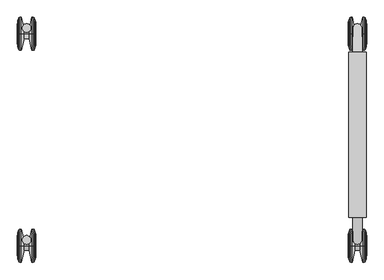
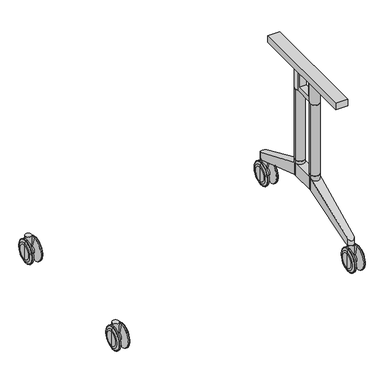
"""IFC4 building model written with IfcOpenShell, lengths in millimetres: furniture geometry, Furniture_Wilkhahn_614-00_TimetableShift : TIMETABLE SHIFT 614/00 1500L x 0900W."""

from ifc_helpers import new_model, si_unit, point, frame, frame_2d, origin, place, context, project, spatial, polyline, circle_curve, ellipse_curve, trimmed, segment, composite_curve, outline, extrude, source, transform, mapped, element, save
from ifc_brep_helpers import plane_surface, cylinder_surface, revolved_surface, advanced_brep


def furniture_ef3f2d50(model_context):
    return source(origin(), model_context, "Body", "SolidModel", [
        advanced_brep(
        [(527.500346, 204.1135107, 49.9999988), (527.500346, 204.1135107, 19.8683152), (527.500346, 204.1135107, 80.1316828), (472.5003238, 204.1135107, 19.8683152), (472.5003238, 204.1135107, 49.9999988), (472.5003238, 204.1135107, 80.1316828), (476.8165382, 204.1135107, 2.051318), (474.0398166, 204.1135107, 10.381507), (474.0398166, 204.1135107, 89.6184911), (476.8165382, 204.1135107, 97.9486801), (484.500318, 204.1135107, -1.2e-06), (479.6625889, 204.1135107, -1.2e-06), (479.6625889, 204.1135107, 99.9999992), (484.500318, 204.1135107, 99.9999992), (492.5003021, 204.1135107, 35.0000003), (492.5003021, 204.1135107, 64.9999978), (507.5003676, 204.1135107, 35.0000003), (507.5003676, 204.1135107, 64.9999978), (515.5003517, 204.1135107, -1.2e-06), (515.5003517, 204.1135107, 99.9999992), (520.3380808, 204.1135107, -1.2e-06), (520.3380808, 204.1135107, 99.9999992), (525.9608532, 204.1135107, 10.381507), (523.1841316, 204.1135107, 2.051318), (523.1841316, 204.1135107, 97.9486801), (525.9608532, 204.1135107, 89.6184911)],
        [
            (0, 1),
            (1, 2, circle_curve(frame((527.500346, 204.1135107, 49.999999), z_axis=(1.0, 0.0, 0.0), x_axis=(0.0, 0.0, 1.0)), 30.1316838)),
            (2, 0),
            (2, 1, circle_curve(frame((527.500346, 204.1135107, 49.999999), z_axis=(1.0, 0.0, 0.0), x_axis=(0.0, 0.0, 1.0)), 30.1316838)),
            (3, 4),
            (4, 5),
            (5, 3, circle_curve(frame((472.5003238, 204.1135107, 49.999999), z_axis=(-1.0, 0.0, 0.0), x_axis=(0.0, 0.0, 1.0)), 30.1316838)),
            (3, 5, circle_curve(frame((472.5003238, 204.1135107, 49.999999), z_axis=(-1.0, 0.0, 0.0), x_axis=(0.0, 0.0, 1.0)), 30.1316838)),
            (6, 7),
            (7, 8, circle_curve(frame((474.0398166, 204.1135107, 49.999999), z_axis=(1.0, 0.0, 0.0), x_axis=(0.0, 0.0, 1.0)), 39.618492)),
            (8, 9),
            (9, 6, circle_curve(frame((476.8165382, 204.1135107, 49.999999), z_axis=(-1.0, 0.0, 0.0), x_axis=(0.0, 0.0, 1.0)), 47.948681)),
            (8, 7, circle_curve(frame((474.0398166, 204.1135107, 49.999999), z_axis=(1.0, 0.0, 0.0), x_axis=(0.0, 0.0, 1.0)), 39.618492)),
            (6, 9, circle_curve(frame((476.8165382, 204.1135107, 49.999999), z_axis=(-1.0, 0.0, 0.0), x_axis=(0.0, 0.0, 1.0)), 47.948681)),
            (10, 11),
            (11, 12, circle_curve(frame((479.6625889, 204.1135107, 49.999999), z_axis=(1.0, 0.0, 0.0), x_axis=(0.0, 0.0, 1.0)), 50.0000002)),
            (12, 13),
            (13, 10, circle_curve(frame((484.500318, 204.1135107, 49.999999), z_axis=(-1.0, 0.0, 0.0), x_axis=(0.0, 0.0, 1.0)), 50.0000002)),
            (12, 11, circle_curve(frame((479.6625889, 204.1135107, 49.999999), z_axis=(1.0, 0.0, 0.0), x_axis=(0.0, 0.0, 1.0)), 50.0000002)),
            (10, 13, circle_curve(frame((484.500318, 204.1135107, 49.999999), z_axis=(-1.0, 0.0, 0.0), x_axis=(0.0, 0.0, 1.0)), 50.0000002)),
            (14, 10),
            (13, 15),
            (15, 14, circle_curve(frame((492.5003021, 204.1135107, 49.999999), z_axis=(-1.0, 0.0, 0.0), x_axis=(0.0, 0.0, 1.0)), 14.9999987)),
            (14, 15, circle_curve(frame((492.5003021, 204.1135107, 49.999999), z_axis=(-1.0, 0.0, 0.0), x_axis=(0.0, 0.0, 1.0)), 14.9999987)),
            (16, 14),
            (15, 17),
            (17, 16, circle_curve(frame((507.5003676, 204.1135107, 49.999999), z_axis=(-1.0, 0.0, 0.0), x_axis=(0.0, 0.0, 1.0)), 14.9999987)),
            (16, 17, circle_curve(frame((507.5003676, 204.1135107, 49.999999), z_axis=(-1.0, 0.0, 0.0), x_axis=(0.0, 0.0, 1.0)), 14.9999987)),
            (18, 16),
            (17, 19),
            (19, 18, circle_curve(frame((515.5003517, 204.1135107, 49.999999), z_axis=(-1.0, 0.0, 0.0), x_axis=(0.0, 0.0, 1.0)), 50.0000002)),
            (18, 19, circle_curve(frame((515.5003517, 204.1135107, 49.999999), z_axis=(-1.0, 0.0, 0.0), x_axis=(0.0, 0.0, 1.0)), 50.0000002)),
            (20, 18),
            (19, 21),
            (21, 20, circle_curve(frame((520.3380808, 204.1135107, 49.999999), z_axis=(-1.0, 0.0, 0.0), x_axis=(0.0, 0.0, 1.0)), 50.0000002)),
            (20, 21, circle_curve(frame((520.3380808, 204.1135107, 49.999999), z_axis=(-1.0, 0.0, 0.0), x_axis=(0.0, 0.0, 1.0)), 50.0000002)),
            (22, 23),
            (23, 24, circle_curve(frame((523.1841316, 204.1135107, 49.999999), z_axis=(1.0, 0.0, 0.0), x_axis=(0.0, 0.0, 1.0)), 47.948681)),
            (24, 25),
            (25, 22, circle_curve(frame((525.9608532, 204.1135107, 49.999999), z_axis=(-1.0, 0.0, 0.0), x_axis=(0.0, 0.0, 1.0)), 39.618492)),
            (24, 23, circle_curve(frame((523.1841316, 204.1135107, 49.999999), z_axis=(1.0, 0.0, 0.0), x_axis=(0.0, 0.0, 1.0)), 47.948681)),
            (22, 25, circle_curve(frame((525.9608532, 204.1135107, 49.999999), z_axis=(-1.0, 0.0, 0.0), x_axis=(0.0, 0.0, 1.0)), 39.618492)),
            (7, 3, circle_curve(frame((502.5003238, 204.1135107, 19.8683152), z_axis=(0.0, 1.0000000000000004, 0.0), x_axis=(-1.0000000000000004, 0.0, 0.0)), 30.0)),
            (5, 8, circle_curve(frame((502.5003238, 204.1135107, 80.1316828), z_axis=(0.0, 1.0000000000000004, 0.0), x_axis=(-1.0000000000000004, 0.0, 0.0)), 30.0)),
            (11, 6, circle_curve(frame((479.6625889, 204.1135107, 2.9999988), z_axis=(0.0, 1.0000000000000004, 0.0), x_axis=(-1.0000000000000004, 0.0, 0.0)), 3.0)),
            (9, 12, circle_curve(frame((479.6625889, 204.1135107, 96.9999992), z_axis=(0.0, 1.0000000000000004, 0.0), x_axis=(-1.0000000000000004, 0.0, 0.0)), 3.0)),
            (23, 20, circle_curve(frame((520.3380808, 204.1135107, 2.9999988), z_axis=(0.0, 1.0000000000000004, 0.0), x_axis=(-1.0000000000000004, 0.0, 0.0)), 3.0)),
            (21, 24, circle_curve(frame((520.3380808, 204.1135107, 96.9999992), z_axis=(0.0, 1.0000000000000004, 0.0), x_axis=(-1.0000000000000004, 0.0, 0.0)), 3.0)),
            (1, 22, circle_curve(frame((497.500346, 204.1135107, 19.8683152), z_axis=(0.0, 1.0000000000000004, 0.0), x_axis=(-1.0000000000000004, 0.0, 0.0)), 30.0)),
            (25, 2, circle_curve(frame((497.500346, 204.1135107, 80.1316828), z_axis=(0.0, 1.0000000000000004, 0.0), x_axis=(-1.0000000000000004, 0.0, 0.0)), 30.0)),
        ],
        [
            plane_surface(frame((527.500346, 204.1135107, 49.999999), z_axis=(1.0, 0.0, 0.0), x_axis=(0.0, 0.0, 1.0))),
            plane_surface(frame((472.5003238, 204.1135107, 49.999999), z_axis=(-1.0, 0.0, 0.0), x_axis=(0.0, 0.0, 1.0))),
            revolved_surface(polyline([(474.0398166, 204.1135107, 89.6184911), (476.8165382, 204.1135107, 97.9486801)]), (539.0660385, 204.1135107, 49.999999), (1.0000000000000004, 0.0, 0.0)),
            cylinder_surface(frame((539.0660385, 204.1135107, 49.999999), z_axis=(1.0000000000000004, 0.0, 0.0), x_axis=(0.0, 0.0, 1.0)), 50.0000002),
            revolved_surface(polyline([(484.500318, 204.1135107, 99.9999992), (492.5003021, 204.1135107, 64.9999978)]), (539.0660385, 204.1135107, 49.999999), (1.0000000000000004, 0.0, 0.0)),
            cylinder_surface(frame((539.0660385, 204.1135107, 49.999999), z_axis=(1.0000000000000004, 0.0, 0.0), x_axis=(0.0, 0.0, 1.0)), 14.9999987),
            revolved_surface(polyline([(507.5003676, 204.1135107, 64.9999978), (515.5003517, 204.1135107, 99.9999992)]), (539.0660385, 204.1135107, 49.999999), (1.0000000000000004, 0.0, 0.0)),
            revolved_surface(polyline([(523.1841316, 204.1135107, 97.9486801), (525.9608532, 204.1135107, 89.6184911)]), (539.0660385, 204.1135107, 49.999999), (1.0000000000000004, 0.0, 0.0)),
            revolved_surface(trimmed(ellipse_curve(frame((502.5003238, 204.1135107, 80.1316828), z_axis=(0.0, 1.0000000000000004, 0.0), x_axis=(-1.0000000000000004, 0.0, 0.0)), 30.0, 30.0), [point((472.5003238, 204.1135107, 80.1316828))], [point((474.0398166, 204.1135107, 89.6184911))], True, "CARTESIAN"), (539.0660385, 204.1135107, 49.999999), (1.0000000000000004, 0.0, 0.0)),
            revolved_surface(trimmed(ellipse_curve(frame((479.6625889, 204.1135107, 96.9999992), z_axis=(0.0, 1.0000000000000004, 0.0), x_axis=(-1.0000000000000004, 0.0, 0.0)), 3.0, 3.0), [point((476.8165382, 204.1135107, 97.9486801))], [point((479.6625889, 204.1135107, 99.9999992))], True, "CARTESIAN"), (539.0660385, 204.1135107, 49.999999), (1.0000000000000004, 0.0, 0.0)),
            revolved_surface(trimmed(ellipse_curve(frame((520.3380808, 204.1135107, 96.9999992), z_axis=(0.0, 1.0000000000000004, 0.0), x_axis=(-1.0000000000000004, 0.0, 0.0)), 3.0, 3.0), [point((520.3380808, 204.1135107, 99.9999992))], [point((523.1841316, 204.1135107, 97.9486801))], True, "CARTESIAN"), (539.0660385, 204.1135107, 49.999999), (1.0000000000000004, 0.0, 0.0)),
            revolved_surface(trimmed(ellipse_curve(frame((497.500346, 204.1135107, 80.1316828), z_axis=(0.0, 1.0000000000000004, 0.0), x_axis=(-1.0000000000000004, 0.0, 0.0)), 30.0, 30.0), [point((525.9608532, 204.1135107, 89.6184911))], [point((527.500346, 204.1135107, 80.1316828))], True, "CARTESIAN"), (539.0660385, 204.1135107, 49.999999), (1.0000000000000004, 0.0, 0.0)),
        ],
        [
            (0, [[1, 2, 3]]),
            (0, [[-3, 4, -1]]),
            (1, [[5, 6, 7]]),
            (1, [[-6, -5, 8]]),
            (2, [[9, 10, 11, 12]]),
            (2, [[-11, 13, -9, 14]]),
            (3, [[15, 16, 17, 18]]),
            (3, [[-17, 19, -15, 20]]),
            (4, [[21, -18, 22, 23]]),
            (4, [[-22, -20, -21, 24]]),
            (5, [[25, -23, 26, 27]]),
            (5, [[-26, -24, -25, 28]]),
            (6, [[29, -27, 30, 31]]),
            (6, [[-30, -28, -29, 32]]),
            (3, [[33, -31, 34, 35]]),
            (3, [[-34, -32, -33, 36]]),
            (7, [[37, 38, 39, 40]]),
            (7, [[-39, 41, -37, 42]]),
            (8, [[43, -7, 44, -10]]),
            (8, [[-44, -8, -43, -13]]),
            (9, [[45, -12, 46, -16]]),
            (9, [[-46, -14, -45, -19]]),
            (10, [[47, -35, 48, -38]]),
            (10, [[-48, -36, -47, -41]]),
            (11, [[49, -40, 50, -2]]),
            (11, [[-50, -42, -49, -4]]),
        ],
    ),
        extrude(outline(composite_curve([segment(trimmed(circle_curve(frame_2d((500.0003349, 221.5135103)), 13.1), [point((513.1003349, 221.5135103))], [point((486.9003349, 221.5135103))], False, "CARTESIAN"), True, "CONTINUOUS"), segment(trimmed(circle_curve(frame_2d((500.0003349, 221.5135103)), 13.1), [point((486.9003349, 221.5135103))], [point((513.1003349, 221.5135103))], False, "CARTESIAN"), True, "CONTINUOUS")], self_intersect=False)), frame((0.0, 0.0, 50.0), z_axis=(0.0, 0.0, 1.0), x_axis=(1.0, 0.0, 0.0)), (0.0, 0.0, 1.0), 55.0),
        advanced_brep(
        [(472.5003238, -436.9185854, 49.9999992), (472.5003238, -436.9185854, 80.1316828), (472.5003238, -436.9185854, 19.8683152), (527.500346, -436.9185854, 19.8683152), (527.500346, -436.9185854, 80.1316828), (527.500346, -436.9185854, 49.9999992), (523.1841316, -436.9185854, 2.051318), (523.1841316, -436.9185854, 97.9486801), (525.9608532, -436.9185854, 89.6184911), (525.9608532, -436.9185854, 10.381507), (515.5003517, -436.9185854, -1.2e-06), (515.5003517, -436.9185854, 99.9999992), (520.3380808, -436.9185854, 99.9999992), (520.3380808, -436.9185854, -1.2e-06), (507.5003676, -436.9185854, 35.0000003), (507.5003676, -436.9185854, 64.9999978), (492.5003021, -436.9185854, 35.0000003), (492.5003021, -436.9185854, 64.9999978), (484.500318, -436.9185854, -1.2e-06), (484.500318, -436.9185854, 99.9999992), (479.6625889, -436.9185854, -1.2e-06), (479.6625889, -436.9185854, 99.9999992), (474.0398166, -436.9185854, 10.381507), (474.0398166, -436.9185854, 89.6184911), (476.8165382, -436.9185854, 97.9486801), (476.8165382, -436.9185854, 2.051318)],
        [
            (0, 1),
            (1, 2, circle_curve(frame((472.5003238, -436.9185854, 49.999999), z_axis=(-1.0, 0.0, 0.0), x_axis=(0.0, 0.0, 1.0)), 30.1316838)),
            (2, 0),
            (2, 1, circle_curve(frame((472.5003238, -436.9185854, 49.999999), z_axis=(-1.0, 0.0, 0.0), x_axis=(0.0, 0.0, 1.0)), 30.1316838)),
            (3, 4, circle_curve(frame((527.500346, -436.9185854, 49.999999), z_axis=(1.0, 0.0, 0.0), x_axis=(0.0, 0.0, 1.0)), 30.1316838)),
            (4, 5),
            (5, 3),
            (4, 3, circle_curve(frame((527.500346, -436.9185854, 49.999999), z_axis=(1.0, 0.0, 0.0), x_axis=(0.0, 0.0, 1.0)), 30.1316838)),
            (6, 7, circle_curve(frame((523.1841316, -436.9185854, 49.999999), z_axis=(1.0, 0.0, 0.0), x_axis=(0.0, 0.0, 1.0)), 47.948681)),
            (7, 8),
            (8, 9, circle_curve(frame((525.9608532, -436.9185854, 49.999999), z_axis=(-1.0, 0.0, 0.0), x_axis=(0.0, 0.0, 1.0)), 39.618492)),
            (9, 6),
            (7, 6, circle_curve(frame((523.1841316, -436.9185854, 49.999999), z_axis=(1.0, 0.0, 0.0), x_axis=(0.0, 0.0, 1.0)), 47.948681)),
            (9, 8, circle_curve(frame((525.9608532, -436.9185854, 49.999999), z_axis=(-1.0, 0.0, 0.0), x_axis=(0.0, 0.0, 1.0)), 39.618492)),
            (10, 11, circle_curve(frame((515.5003517, -436.9185854, 49.999999), z_axis=(1.0, 0.0, 0.0), x_axis=(0.0, 0.0, 1.0)), 50.0000002)),
            (11, 12),
            (12, 13, circle_curve(frame((520.3380808, -436.9185854, 49.999999), z_axis=(-1.0, 0.0, 0.0), x_axis=(0.0, 0.0, 1.0)), 50.0000002)),
            (13, 10),
            (11, 10, circle_curve(frame((515.5003517, -436.9185854, 49.999999), z_axis=(1.0, 0.0, 0.0), x_axis=(0.0, 0.0, 1.0)), 50.0000002)),
            (13, 12, circle_curve(frame((520.3380808, -436.9185854, 49.999999), z_axis=(-1.0, 0.0, 0.0), x_axis=(0.0, 0.0, 1.0)), 50.0000002)),
            (14, 15, circle_curve(frame((507.5003676, -436.9185854, 49.999999), z_axis=(1.0, 0.0, 0.0), x_axis=(0.0, 0.0, 1.0)), 14.9999987)),
            (15, 11),
            (10, 14),
            (15, 14, circle_curve(frame((507.5003676, -436.9185854, 49.999999), z_axis=(1.0, 0.0, 0.0), x_axis=(0.0, 0.0, 1.0)), 14.9999987)),
            (16, 17, circle_curve(frame((492.5003021, -436.9185854, 49.999999), z_axis=(1.0, 0.0, 0.0), x_axis=(0.0, 0.0, 1.0)), 14.9999987)),
            (17, 15),
            (14, 16),
            (17, 16, circle_curve(frame((492.5003021, -436.9185854, 49.999999), z_axis=(1.0, 0.0, 0.0), x_axis=(0.0, 0.0, 1.0)), 14.9999987)),
            (18, 19, circle_curve(frame((484.500318, -436.9185854, 49.999999), z_axis=(1.0, 0.0, 0.0), x_axis=(0.0, 0.0, 1.0)), 50.0000002)),
            (19, 17),
            (16, 18),
            (19, 18, circle_curve(frame((484.500318, -436.9185854, 49.999999), z_axis=(1.0, 0.0, 0.0), x_axis=(0.0, 0.0, 1.0)), 50.0000002)),
            (20, 21, circle_curve(frame((479.6625889, -436.9185854, 49.999999), z_axis=(1.0, 0.0, 0.0), x_axis=(0.0, 0.0, 1.0)), 50.0000002)),
            (21, 19),
            (18, 20),
            (21, 20, circle_curve(frame((479.6625889, -436.9185854, 49.999999), z_axis=(1.0, 0.0, 0.0), x_axis=(0.0, 0.0, 1.0)), 50.0000002)),
            (22, 23, circle_curve(frame((474.0398166, -436.9185854, 49.999999), z_axis=(1.0, 0.0, 0.0), x_axis=(0.0, 0.0, 1.0)), 39.618492)),
            (23, 24),
            (24, 25, circle_curve(frame((476.8165382, -436.9185854, 49.999999), z_axis=(-1.0, 0.0, 0.0), x_axis=(0.0, 0.0, 1.0)), 47.948681)),
            (25, 22),
            (23, 22, circle_curve(frame((474.0398166, -436.9185854, 49.999999), z_axis=(1.0, 0.0, 0.0), x_axis=(0.0, 0.0, 1.0)), 39.618492)),
            (25, 24, circle_curve(frame((476.8165382, -436.9185854, 49.999999), z_axis=(-1.0, 0.0, 0.0), x_axis=(0.0, 0.0, 1.0)), 47.948681)),
            (8, 4, circle_curve(frame((497.500346, -436.9185854, 80.1316828), z_axis=(0.0, 1.0, 0.0), x_axis=(1.0, 0.0, 0.0)), 30.0)),
            (3, 9, circle_curve(frame((497.500346, -436.9185854, 19.8683152), z_axis=(0.0, 1.0, 0.0), x_axis=(1.0, 0.0, 0.0)), 30.0)),
            (12, 7, circle_curve(frame((520.3380808, -436.9185854, 96.9999992), z_axis=(0.0, 1.0, 0.0), x_axis=(1.0, 0.0, 0.0)), 3.0)),
            (6, 13, circle_curve(frame((520.3380808, -436.9185854, 2.9999988), z_axis=(0.0, 1.0, 0.0), x_axis=(1.0, 0.0, 0.0)), 3.0)),
            (24, 21, circle_curve(frame((479.6625889, -436.9185854, 96.9999992), z_axis=(0.0, 1.0, 0.0), x_axis=(1.0, 0.0, 0.0)), 3.0)),
            (20, 25, circle_curve(frame((479.6625889, -436.9185854, 2.9999988), z_axis=(0.0, 1.0, 0.0), x_axis=(1.0, 0.0, 0.0)), 3.0)),
            (1, 23, circle_curve(frame((502.5003238, -436.9185854, 80.1316828), z_axis=(0.0, 1.0, 0.0), x_axis=(1.0, 0.0, 0.0)), 30.0)),
            (22, 2, circle_curve(frame((502.5003238, -436.9185854, 19.8683152), z_axis=(0.0, 1.0, 0.0), x_axis=(1.0, 0.0, 0.0)), 30.0)),
        ],
        [
            plane_surface(frame((472.5003238, -436.9185854, 49.999999), z_axis=(-1.0, 0.0, 0.0), x_axis=(0.0, 0.0, 1.0))),
            plane_surface(frame((527.500346, -436.9185854, 49.999999), z_axis=(1.0, 0.0, 0.0), x_axis=(0.0, 0.0, 1.0))),
            revolved_surface(polyline([(525.9608532, -436.9185854, 89.6184911), (523.1841316, -436.9185854, 97.9486801)]), (460.9346312, -436.9185854, 49.999999), (-1.0, 0.0, 0.0)),
            cylinder_surface(frame((460.9346312, -436.9185854, 49.999999), z_axis=(-1.0, 0.0, 0.0), x_axis=(0.0, 0.0, 1.0)), 50.0000002),
            revolved_surface(polyline([(515.5003517, -436.9185854, 99.9999992), (507.5003676, -436.9185854, 64.9999978)]), (460.9346312, -436.9185854, 49.999999), (-1.0, 0.0, 0.0)),
            cylinder_surface(frame((460.9346312, -436.9185854, 49.999999), z_axis=(-1.0, 0.0, 0.0), x_axis=(0.0, 0.0, 1.0)), 14.9999987),
            revolved_surface(polyline([(492.5003021, -436.9185854, 64.9999978), (484.500318, -436.9185854, 99.9999992)]), (460.9346312, -436.9185854, 49.999999), (-1.0, 0.0, 0.0)),
            revolved_surface(polyline([(476.8165382, -436.9185854, 97.9486801), (474.0398166, -436.9185854, 89.6184911)]), (460.9346312, -436.9185854, 49.999999), (-1.0, 0.0, 0.0)),
            revolved_surface(trimmed(ellipse_curve(frame((497.500346, -436.9185854, 80.1316828), z_axis=(0.0, -1.0, 0.0), x_axis=(1.0, 0.0, 0.0)), 30.0, 30.0), [point((527.500346, -436.9185854, 80.1316828))], [point((525.9608532, -436.9185854, 89.6184911))], True, "CARTESIAN"), (460.9346312, -436.9185854, 49.999999), (-1.0, 0.0, 0.0)),
            revolved_surface(trimmed(ellipse_curve(frame((520.3380808, -436.9185854, 96.9999992), z_axis=(0.0, -1.0, 0.0), x_axis=(1.0, 0.0, 0.0)), 3.0, 3.0), [point((523.1841316, -436.9185854, 97.9486801))], [point((520.3380808, -436.9185854, 99.9999992))], True, "CARTESIAN"), (460.9346312, -436.9185854, 49.999999), (-1.0, 0.0, 0.0)),
            revolved_surface(trimmed(ellipse_curve(frame((479.6625889, -436.9185854, 96.9999992), z_axis=(0.0, -1.0, 0.0), x_axis=(1.0, 0.0, 0.0)), 3.0, 3.0), [point((479.6625889, -436.9185854, 99.9999992))], [point((476.8165382, -436.9185854, 97.9486801))], True, "CARTESIAN"), (460.9346312, -436.9185854, 49.999999), (-1.0, 0.0, 0.0)),
            revolved_surface(trimmed(ellipse_curve(frame((502.5003238, -436.9185854, 80.1316828), z_axis=(0.0, -1.0, 0.0), x_axis=(1.0, 0.0, 0.0)), 30.0, 30.0), [point((474.0398166, -436.9185854, 89.6184911))], [point((472.5003238, -436.9185854, 80.1316828))], True, "CARTESIAN"), (460.9346312, -436.9185854, 49.999999), (-1.0, 0.0, 0.0)),
        ],
        [
            (0, [[1, 2, 3]]),
            (0, [[-3, 4, -1]]),
            (1, [[5, 6, 7]]),
            (1, [[8, -7, -6]]),
            (2, [[9, 10, 11, 12]]),
            (2, [[13, -12, 14, -10]]),
            (3, [[15, 16, 17, 18]]),
            (3, [[19, -18, 20, -16]]),
            (4, [[21, 22, -15, 23]]),
            (4, [[24, -23, -19, -22]]),
            (5, [[25, 26, -21, 27]]),
            (5, [[28, -27, -24, -26]]),
            (6, [[29, 30, -25, 31]]),
            (6, [[32, -31, -28, -30]]),
            (3, [[33, 34, -29, 35]]),
            (3, [[36, -35, -32, -34]]),
            (7, [[37, 38, 39, 40]]),
            (7, [[41, -40, 42, -38]]),
            (8, [[-11, 43, -5, 44]]),
            (8, [[-14, -44, -8, -43]]),
            (9, [[-17, 45, -9, 46]]),
            (9, [[-20, -46, -13, -45]]),
            (10, [[-39, 47, -33, 48]]),
            (10, [[-42, -48, -36, -47]]),
            (11, [[-2, 49, -37, 50]]),
            (11, [[-4, -50, -41, -49]]),
        ],
    ),
        extrude(outline(composite_curve([segment(trimmed(circle_curve(frame_2d((500.0003349, -419.5185858)), 13.1), [point((486.9003349, -419.5185858))], [point((513.1003349, -419.5185858))], False, "CARTESIAN"), True, "CONTINUOUS"), segment(trimmed(circle_curve(frame_2d((500.0003349, -419.5185858)), 13.1), [point((513.1003349, -419.5185858))], [point((486.9003349, -419.5185858))], False, "CARTESIAN"), True, "CONTINUOUS")], self_intersect=False)), frame((0.0, 0.0, 50.0), z_axis=(0.0, 0.0, 1.0), x_axis=(1.0, 0.0, 0.0)), (0.0, 0.0, 1.0), 55.0),
        extrude(outline(composite_curve([segment(trimmed(circle_curve(frame_2d((500.0, -154.0488451)), 20.0), [point((480.0, -154.0488451))], [point((520.0, -154.0488451))], False, "CARTESIAN"), True, "CONTINUOUS"), segment(trimmed(circle_curve(frame_2d((500.0, -154.0488451)), 20.0), [point((520.0, -154.0488451))], [point((480.0, -154.0488451))], False, "CARTESIAN"), True, "CONTINUOUS")], self_intersect=False)), frame((0.0, 0.0, 193.3080085), z_axis=(0.0, 0.0, 1.0), x_axis=(1.0, 0.0, 0.0)), (0.0, 0.0, 1.0), 68.8536941),
        extrude(outline(composite_curve([segment(trimmed(circle_curve(frame_2d((500.0, -44.0488461)), 20.0), [point((480.0, -44.0488461))], [point((520.0, -44.0488461))], False, "CARTESIAN"), True, "CONTINUOUS"), segment(trimmed(circle_curve(frame_2d((500.0, -44.0488461)), 20.0), [point((520.0, -44.0488461))], [point((480.0, -44.0488461))], False, "CARTESIAN"), True, "CONTINUOUS")], self_intersect=False)), frame((0.0, 0.0, 193.3080085), z_axis=(0.0, 0.0, 1.0), x_axis=(1.0, 0.0, 0.0)), (0.0, 0.0, 1.0), 68.8536941),
        extrude(outline(composite_curve([segment(trimmed(circle_curve(frame_2d((500.0, -154.0488451)), 20.0), [point((480.0, -154.0488451))], [point((520.0, -154.0488451))], False, "CARTESIAN"), True, "CONTINUOUS"), segment(trimmed(circle_curve(frame_2d((500.0, -154.0488451)), 20.0), [point((520.0, -154.0488451))], [point((480.0, -154.0488451))], False, "CARTESIAN"), True, "CONTINUOUS")], self_intersect=False)), frame((0.0, 0.0, 262.1617027), z_axis=(0.0, 0.0, 1.0), x_axis=(1.0, 0.0, 0.0)), (0.0, 0.0, 1.0), 317.8382973),
        extrude(outline(composite_curve([segment(trimmed(circle_curve(frame_2d((500.0, -44.0488461)), 20.0), [point((480.0, -44.0488461))], [point((520.0, -44.0488461))], False, "CARTESIAN"), True, "CONTINUOUS"), segment(trimmed(circle_curve(frame_2d((500.0, -44.0488461)), 20.0), [point((520.0, -44.0488461))], [point((480.0, -44.0488461))], False, "CARTESIAN"), True, "CONTINUOUS")], self_intersect=False)), frame((0.0, 0.0, 262.1617027), z_axis=(0.0, 0.0, 1.0), x_axis=(1.0, 0.0, 0.0)), (0.0, 0.0, 1.0), 317.8382973),
        extrude(outline(polyline([(526.0000118, 147.9511612), (526.0000118, -352.0488426), (473.9999882, -352.0488426), (473.9999882, 147.9511612), (526.0000118, 147.9511612)])), frame((0.0, 0.0, 676.0000168), z_axis=(0.0, 0.0, 1.0), x_axis=(1.0, 0.0, 0.0)), (0.0, 0.0, 1.0), 27.9999624),
        advanced_brep(
        [(485.0001238, -140.8200278, 676.0000168), (515.0001095, -140.8201331, 676.0000168), (515.0001095, -134.0488456, 676.0000168), (485.0001238, -134.0488456, 676.0000168), (515.0001095, -57.2775581, 676.0000168), (485.0001238, -57.2776634, 676.0000168), (485.0001238, -64.0488456, 676.0000168), (515.0001095, -64.0488456, 676.0000168), (485.0001238, -57.2776634, 580.0), (515.0001095, -57.2775581, 580.0), (515.0001095, -140.8201331, 580.0), (485.0001238, -140.8200278, 580.0), (485.0001238, -134.0488456, 598.0000176), (485.0001238, -64.0488456, 598.0000176), (515.0001095, -64.0488456, 598.0000176), (515.0001095, -134.0488456, 598.0000176)],
        [
            (0, 1, circle_curve(frame((500.0000702, -154.0488451, 676.0000168), z_axis=(0.0, 0.0, 1.0), x_axis=(1.0, 0.0, 0.0)), 20.0)),
            (1, 2),
            (2, 3),
            (3, 0),
            (4, 5, circle_curve(frame((500.0000702, -44.0488461, 676.0000168), z_axis=(0.0, 0.0, 1.0), x_axis=(1.0, 0.0, 0.0)), 20.0)),
            (5, 6),
            (6, 7),
            (7, 4),
            (8, 9, circle_curve(frame((500.0000702, -44.0488461, 580.0), z_axis=(0.0, 0.0, -1.0), x_axis=(1.0, 0.0, 0.0)), 20.0)),
            (9, 10),
            (10, 11, circle_curve(frame((500.0000702, -154.0488451, 580.0), z_axis=(0.0, 0.0, -1.0), x_axis=(1.0, 0.0, 0.0)), 20.0)),
            (11, 8),
            (11, 0),
            (3, 12),
            (12, 13),
            (13, 6),
            (5, 8),
            (10, 1),
            (9, 4),
            (7, 14),
            (14, 15),
            (15, 2),
            (15, 12),
            (14, 13),
        ],
        [
            plane_surface(frame((485.0001238, -140.8200278, 676.0000168), z_axis=(0.0, 0.0, 1.0), x_axis=(0.0, -1.0, 0.0))),
            plane_surface(frame((485.0001238, -140.8200278, 580.0), z_axis=(0.0, 0.0, -1.0), x_axis=(0.0, 1.0, 0.0))),
            plane_surface(frame((485.0001238, -57.2776634, 676.0000168), z_axis=(-1.0, 0.0, 0.0), x_axis=(0.0, 0.0, -1.0))),
            cylinder_surface(frame((500.0000702, -154.0488451, 580.0), z_axis=(0.0, 0.0, 1.0), x_axis=(1.0, 0.0, 0.0)), 20.0),
            plane_surface(frame((515.0001095, -140.8201331, 676.0000168), z_axis=(1.0, 0.0, 0.0), x_axis=(0.0, 0.0, -1.0))),
            cylinder_surface(frame((500.0000702, -44.0488461, 580.0), z_axis=(0.0, 0.0, 1.0), x_axis=(1.0, 0.0, 0.0)), 20.0),
            plane_surface(frame((515.0001095, -134.0488456, 676.0000168), z_axis=(0.0, 1.0, 0.0), x_axis=(-1.0, 0.0, 0.0))),
            plane_surface(frame((515.0001095, -134.0488456, 598.0000176), z_axis=(0.0, 0.0, 1.0), x_axis=(-1.0, 0.0, 0.0))),
            plane_surface(frame((515.0001095, -64.0488456, 598.0000176), z_axis=(0.0, -1.0, 0.0), x_axis=(-1.0, 0.0, 0.0))),
        ],
        [
            (0, [[1, 2, 3, 4]]),
            (0, [[5, 6, 7, 8]]),
            (1, [[9, 10, 11, 12]]),
            (2, [[-12, 13, -4, 14, 15, 16, -6, 17]]),
            (3, [[-1, -13, -11, 18]]),
            (4, [[-10, 19, -8, 20, 21, 22, -2, -18]]),
            (5, [[-5, -19, -9, -17]]),
            (6, [[23, -14, -3, -22]]),
            (7, [[-23, -21, 24, -15]]),
            (8, [[-24, -20, -7, -16]]),
        ],
    ),
        advanced_brep(
        [(519.9999818, -154.0488451, 248.3080085), (519.9999818, -44.0488461, 248.3080085), (479.9999818, -44.0488461, 248.3080085), (479.9999818, -154.0488451, 248.3080085), (479.9999818, -44.0488461, 193.3080085), (479.9999818, -154.0488451, 193.3080085), (519.9999818, -154.0488451, 193.3080085), (519.9999818, -44.0488461, 193.3080085), (513.4728951, 208.4135103, 105.0), (486.527103, 208.4135103, 105.0), (486.8737706, 221.8222582, 105.0), (513.1262294, 221.8222564, 105.0), (486.8737706, 221.8222582, 133.4205559), (513.1262294, 221.8222564, 133.4205567), (519.7999588, -36.3121196, 193.3080085), (480.2000059, -36.3121196, 193.3080085), (513.1262294, -419.9199475, 133.4205567), (486.8737706, -419.9199493, 133.4205559), (513.1262294, -419.9199475, 105.0), (513.4728951, -406.5112014, 105.0), (519.7999588, -161.7855715, 193.3080085), (486.8737706, -419.9199493, 105.0), (480.2000059, -161.7855715, 193.3080085), (486.527103, -406.5112014, 105.0)],
        [
            (0, 1),
            (1, 2),
            (2, 3),
            (3, 0),
            (2, 4),
            (4, 5),
            (5, 3),
            (0, 6),
            (6, 7),
            (7, 1),
            (8, 9),
            (9, 10),
            (10, 11, circle_curve(frame((500.0, 221.4828948, 105.0), z_axis=(0.0, 0.0, -1.0), x_axis=(1.0, 0.0, 0.0)), 13.1306156)),
            (11, 8),
            (12, 2),
            (1, 13),
            (13, 12, ellipse_curve(frame((500.0, 221.4828948, 133.5672007), z_axis=(0.0, 0.3966672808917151, 0.9179624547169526), x_axis=(0.0, 0.9179624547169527, -0.39666728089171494)), 14.3040878, 13.1306156)),
            (8, 14),
            (14, 15),
            (15, 9),
            (16, 0),
            (3, 17),
            (17, 16, ellipse_curve(frame((500.0, -419.5805859, 133.5672007), z_axis=(0.0, -0.3966672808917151, 0.9179624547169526), x_axis=(0.0, -0.9179624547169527, -0.39666728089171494)), 14.3040878, 13.1306156)),
            (16, 18),
            (18, 19),
            (19, 20),
            (20, 6),
            (17, 21),
            (21, 18, circle_curve(frame((500.0, -419.5805859, 105.0), z_axis=(0.0, 0.0, 1.0), x_axis=(1.0, 0.0, 0.0)), 13.1306156)),
            (5, 22),
            (22, 23),
            (23, 21),
            (12, 10),
            (15, 4),
            (13, 11),
            (7, 14),
            (23, 19),
            (22, 20),
        ],
        [
            plane_surface(frame((519.9999818, -44.0488461, 248.3080085), z_axis=(0.0, 0.0, 1.0), x_axis=(0.0, 1.0, 0.0))),
            plane_surface(frame((479.9999818, -44.0488461, 248.3080085), z_axis=(-1.0, 0.0, 0.0), x_axis=(0.0, 0.0, -1.0))),
            plane_surface(frame((519.9999818, -154.0488451, 248.3080085), z_axis=(1.0, 0.0, 0.0), x_axis=(0.0, 0.0, -1.0))),
            plane_surface(frame((521.3794585, 208.4135103, 105.0), z_axis=(0.0, 0.0, -1.0), x_axis=(-1.0, 0.0, 0.0))),
            plane_surface(frame((521.3794585, 235.9511544, 127.3152182), z_axis=(0.0, 0.3966672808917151, 0.9179624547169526), x_axis=(-1.0, 0.0, 0.0))),
            plane_surface(frame((521.3794585, -36.3121196, 193.3080085), z_axis=(0.0, -0.3394229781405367, -0.9406338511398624), x_axis=(-1.0, 0.0, 0.0))),
            plane_surface(frame((521.3794585, -154.0488451, 248.3080085), z_axis=(0.0, -0.3966672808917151, 0.9179624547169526), x_axis=(-1.0, 0.0, 0.0))),
            plane_surface(frame((519.9999818, -154.0488451, 249.0000084), z_axis=(0.9996659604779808, -0.025845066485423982, 0.0), x_axis=(0.0, 0.0, -1.0))),
            cylinder_surface(frame((500.0, -419.5805859, 90.0000025), z_axis=(0.0, 0.0, -1.0), x_axis=(1.0, 0.0, 0.0)), 13.1306156),
            plane_surface(frame((486.8737706, -419.9199493, 249.0000084), z_axis=(-0.9996659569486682, -0.025845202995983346, 0.0), x_axis=(0.0, 0.0, -1.0))),
            plane_surface(frame((479.9999818, -44.0488461, 249.0000084), z_axis=(-0.9996659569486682, 0.025845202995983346, 0.0), x_axis=(0.0, 0.0, -1.0))),
            cylinder_surface(frame((500.0, 221.4828948, 0.0), z_axis=(0.0, 0.0, -1.0), x_axis=(1.0, 0.0, 0.0)), 13.1306156),
            plane_surface(frame((513.1262294, 221.8222564, 249.0000084), z_axis=(0.9996659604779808, 0.025845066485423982, 0.0), x_axis=(0.0, 0.0, -1.0))),
            plane_surface(frame((521.3794585, -434.0488456, 105.0), z_axis=(0.0, 0.0, -1.0), x_axis=(-1.0, 0.0, 0.0))),
            plane_surface(frame((521.3794585, -406.5112014, 105.0), z_axis=(0.0, 0.3394229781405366, -0.9406338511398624), x_axis=(-1.0, 0.0, 0.0))),
            plane_surface(frame((521.3794585, -44.0488461, 193.3080085), z_axis=(0.0, 0.0, -1.0), x_axis=(-1.0, 0.0, 0.0))),
        ],
        [
            (0, [[1, 2, 3, 4]]),
            (1, [[-3, 5, 6, 7]]),
            (2, [[-1, 8, 9, 10]]),
            (3, [[11, 12, 13, 14]]),
            (4, [[15, -2, 16, 17]]),
            (5, [[-11, 18, 19, 20]]),
            (6, [[21, -4, 22, 23]]),
            (7, [[24, 25, 26, 27, -8, -21]]),
            (8, [[-24, -23, 28, 29]]),
            (9, [[-28, -22, -7, 30, 31, 32]]),
            (10, [[33, -12, -20, 34, -5, -15]]),
            (11, [[-33, -17, 35, -13]]),
            (12, [[-35, -16, -10, 36, -18, -14]]),
            (13, [[37, -25, -29, -32]]),
            (14, [[-37, -31, 38, -26]]),
            (15, [[-19, -36, -9, -27, -38, -30, -6, -34]]),
        ],
    ),
        advanced_brep(
        [(-472.499654, 204.1135107, 49.9999988), (-472.499654, 204.1135107, 19.8683152), (-472.499654, 204.1135107, 80.1316828), (-527.4996762, 204.1135107, 19.8683152), (-527.4996762, 204.1135107, 49.9999988), (-527.4996762, 204.1135107, 80.1316828), (-523.1834618, 204.1135107, 2.051318), (-525.9601834, 204.1135107, 10.381507), (-525.9601834, 204.1135107, 89.6184911), (-523.1834618, 204.1135107, 97.9486801), (-515.499682, 204.1135107, -1.2e-06), (-520.3374111, 204.1135107, -1.2e-06), (-520.3374111, 204.1135107, 99.9999992), (-515.499682, 204.1135107, 99.9999992), (-507.4996979, 204.1135107, 35.0000003), (-507.4996979, 204.1135107, 64.9999978), (-492.4996324, 204.1135107, 35.0000003), (-492.4996324, 204.1135107, 64.9999978), (-484.4996483, 204.1135107, -1.2e-06), (-484.4996483, 204.1135107, 99.9999992), (-479.6619192, 204.1135107, -1.2e-06), (-479.6619192, 204.1135107, 99.9999992), (-474.0391468, 204.1135107, 10.381507), (-476.8158684, 204.1135107, 2.051318), (-476.8158684, 204.1135107, 97.9486801), (-474.0391468, 204.1135107, 89.6184911)],
        [
            (0, 1),
            (1, 2, circle_curve(frame((-472.499654, 204.1135107, 49.999999), z_axis=(1.0, 0.0, 0.0), x_axis=(0.0, 0.0, 1.0)), 30.1316838)),
            (2, 0),
            (2, 1, circle_curve(frame((-472.499654, 204.1135107, 49.999999), z_axis=(1.0, 0.0, 0.0), x_axis=(0.0, 0.0, 1.0)), 30.1316838)),
            (3, 4),
            (4, 5),
            (5, 3, circle_curve(frame((-527.4996762, 204.1135107, 49.999999), z_axis=(-1.0, 0.0, 0.0), x_axis=(0.0, 0.0, 1.0)), 30.1316838)),
            (3, 5, circle_curve(frame((-527.4996762, 204.1135107, 49.999999), z_axis=(-1.0, 0.0, 0.0), x_axis=(0.0, 0.0, 1.0)), 30.1316838)),
            (6, 7),
            (7, 8, circle_curve(frame((-525.9601834, 204.1135107, 49.999999), z_axis=(1.0, 0.0, 0.0), x_axis=(0.0, 0.0, 1.0)), 39.618492)),
            (8, 9),
            (9, 6, circle_curve(frame((-523.1834618, 204.1135107, 49.999999), z_axis=(-1.0, 0.0, 0.0), x_axis=(0.0, 0.0, 1.0)), 47.948681)),
            (8, 7, circle_curve(frame((-525.9601834, 204.1135107, 49.999999), z_axis=(1.0, 0.0, 0.0), x_axis=(0.0, 0.0, 1.0)), 39.618492)),
            (6, 9, circle_curve(frame((-523.1834618, 204.1135107, 49.999999), z_axis=(-1.0, 0.0, 0.0), x_axis=(0.0, 0.0, 1.0)), 47.948681)),
            (10, 11),
            (11, 12, circle_curve(frame((-520.3374111, 204.1135107, 49.999999), z_axis=(1.0, 0.0, 0.0), x_axis=(0.0, 0.0, 1.0)), 50.0000002)),
            (12, 13),
            (13, 10, circle_curve(frame((-515.499682, 204.1135107, 49.999999), z_axis=(-1.0, 0.0, 0.0), x_axis=(0.0, 0.0, 1.0)), 50.0000002)),
            (12, 11, circle_curve(frame((-520.3374111, 204.1135107, 49.999999), z_axis=(1.0, 0.0, 0.0), x_axis=(0.0, 0.0, 1.0)), 50.0000002)),
            (10, 13, circle_curve(frame((-515.499682, 204.1135107, 49.999999), z_axis=(-1.0, 0.0, 0.0), x_axis=(0.0, 0.0, 1.0)), 50.0000002)),
            (14, 10),
            (13, 15),
            (15, 14, circle_curve(frame((-507.4996979, 204.1135107, 49.999999), z_axis=(-1.0, 0.0, 0.0), x_axis=(0.0, 0.0, 1.0)), 14.9999987)),
            (14, 15, circle_curve(frame((-507.4996979, 204.1135107, 49.999999), z_axis=(-1.0, 0.0, 0.0), x_axis=(0.0, 0.0, 1.0)), 14.9999987)),
            (16, 14),
            (15, 17),
            (17, 16, circle_curve(frame((-492.4996324, 204.1135107, 49.999999), z_axis=(-1.0, 0.0, 0.0), x_axis=(0.0, 0.0, 1.0)), 14.9999987)),
            (16, 17, circle_curve(frame((-492.4996324, 204.1135107, 49.999999), z_axis=(-1.0, 0.0, 0.0), x_axis=(0.0, 0.0, 1.0)), 14.9999987)),
            (18, 16),
            (17, 19),
            (19, 18, circle_curve(frame((-484.4996483, 204.1135107, 49.999999), z_axis=(-1.0, 0.0, 0.0), x_axis=(0.0, 0.0, 1.0)), 50.0000002)),
            (18, 19, circle_curve(frame((-484.4996483, 204.1135107, 49.999999), z_axis=(-1.0, 0.0, 0.0), x_axis=(0.0, 0.0, 1.0)), 50.0000002)),
            (20, 18),
            (19, 21),
            (21, 20, circle_curve(frame((-479.6619192, 204.1135107, 49.999999), z_axis=(-1.0, 0.0, 0.0), x_axis=(0.0, 0.0, 1.0)), 50.0000002)),
            (20, 21, circle_curve(frame((-479.6619192, 204.1135107, 49.999999), z_axis=(-1.0, 0.0, 0.0), x_axis=(0.0, 0.0, 1.0)), 50.0000002)),
            (22, 23),
            (23, 24, circle_curve(frame((-476.8158684, 204.1135107, 49.999999), z_axis=(1.0, 0.0, 0.0), x_axis=(0.0, 0.0, 1.0)), 47.948681)),
            (24, 25),
            (25, 22, circle_curve(frame((-474.0391468, 204.1135107, 49.999999), z_axis=(-1.0, 0.0, 0.0), x_axis=(0.0, 0.0, 1.0)), 39.618492)),
            (24, 23, circle_curve(frame((-476.8158684, 204.1135107, 49.999999), z_axis=(1.0, 0.0, 0.0), x_axis=(0.0, 0.0, 1.0)), 47.948681)),
            (22, 25, circle_curve(frame((-474.0391468, 204.1135107, 49.999999), z_axis=(-1.0, 0.0, 0.0), x_axis=(0.0, 0.0, 1.0)), 39.618492)),
            (7, 3, circle_curve(frame((-497.4996762, 204.1135107, 19.8683152), z_axis=(0.0, 1.0000000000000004, 0.0), x_axis=(-1.0000000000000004, 0.0, 0.0)), 30.0)),
            (5, 8, circle_curve(frame((-497.4996762, 204.1135107, 80.1316828), z_axis=(0.0, 1.0000000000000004, 0.0), x_axis=(-1.0000000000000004, 0.0, 0.0)), 30.0)),
            (11, 6, circle_curve(frame((-520.3374111, 204.1135107, 2.9999988), z_axis=(0.0, 1.0000000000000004, 0.0), x_axis=(-1.0000000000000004, 0.0, 0.0)), 3.0)),
            (9, 12, circle_curve(frame((-520.3374111, 204.1135107, 96.9999992), z_axis=(0.0, 1.0000000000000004, 0.0), x_axis=(-1.0000000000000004, 0.0, 0.0)), 3.0)),
            (23, 20, circle_curve(frame((-479.6619192, 204.1135107, 2.9999988), z_axis=(0.0, 1.0000000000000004, 0.0), x_axis=(-1.0000000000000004, 0.0, 0.0)), 3.0)),
            (21, 24, circle_curve(frame((-479.6619192, 204.1135107, 96.9999992), z_axis=(0.0, 1.0000000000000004, 0.0), x_axis=(-1.0000000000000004, 0.0, 0.0)), 3.0)),
            (1, 22, circle_curve(frame((-502.499654, 204.1135107, 19.8683152), z_axis=(0.0, 1.0000000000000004, 0.0), x_axis=(-1.0000000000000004, 0.0, 0.0)), 30.0)),
            (25, 2, circle_curve(frame((-502.499654, 204.1135107, 80.1316828), z_axis=(0.0, 1.0000000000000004, 0.0), x_axis=(-1.0000000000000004, 0.0, 0.0)), 30.0)),
        ],
        [
            plane_surface(frame((-472.499654, 204.1135107, 49.999999), z_axis=(1.0, 0.0, 0.0), x_axis=(0.0, 0.0, 1.0))),
            plane_surface(frame((-527.4996762, 204.1135107, 49.999999), z_axis=(-1.0, 0.0, 0.0), x_axis=(0.0, 0.0, 1.0))),
            revolved_surface(polyline([(-525.9601834, 204.1135107, 89.6184911), (-523.1834618, 204.1135107, 97.9486801)]), (-460.9339615, 204.1135107, 49.999999), (1.0000000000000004, 0.0, 0.0)),
            cylinder_surface(frame((-460.9339615, 204.1135107, 49.999999), z_axis=(1.0000000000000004, 0.0, 0.0), x_axis=(0.0, 0.0, 1.0)), 50.0000002),
            revolved_surface(polyline([(-515.499682, 204.1135107, 99.9999992), (-507.4996979, 204.1135107, 64.9999978)]), (-460.9339615, 204.1135107, 49.999999), (1.0000000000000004, 0.0, 0.0)),
            cylinder_surface(frame((-460.9339615, 204.1135107, 49.999999), z_axis=(1.0000000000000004, 0.0, 0.0), x_axis=(0.0, 0.0, 1.0)), 14.9999987),
            revolved_surface(polyline([(-492.4996324, 204.1135107, 64.9999978), (-484.4996483, 204.1135107, 99.9999992)]), (-460.9339615, 204.1135107, 49.999999), (1.0000000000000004, 0.0, 0.0)),
            revolved_surface(polyline([(-476.8158684, 204.1135107, 97.9486801), (-474.0391468, 204.1135107, 89.6184911)]), (-460.9339615, 204.1135107, 49.999999), (1.0000000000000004, 0.0, 0.0)),
            revolved_surface(trimmed(ellipse_curve(frame((-497.4996762, 204.1135107, 80.1316828), z_axis=(0.0, 1.0000000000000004, 0.0), x_axis=(-1.0000000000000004, 0.0, 0.0)), 30.0, 30.0), [point((-527.4996762, 204.1135107, 80.1316828))], [point((-525.9601834, 204.1135107, 89.6184911))], True, "CARTESIAN"), (-460.9339615, 204.1135107, 49.999999), (1.0000000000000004, 0.0, 0.0)),
            revolved_surface(trimmed(ellipse_curve(frame((-520.3374111, 204.1135107, 96.9999992), z_axis=(0.0, 1.0000000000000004, 0.0), x_axis=(-1.0000000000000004, 0.0, 0.0)), 3.0, 3.0), [point((-523.1834618, 204.1135107, 97.9486801))], [point((-520.3374111, 204.1135107, 99.9999992))], True, "CARTESIAN"), (-460.9339615, 204.1135107, 49.999999), (1.0000000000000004, 0.0, 0.0)),
            revolved_surface(trimmed(ellipse_curve(frame((-479.6619192, 204.1135107, 96.9999992), z_axis=(0.0, 1.0000000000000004, 0.0), x_axis=(-1.0000000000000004, 0.0, 0.0)), 3.0, 3.0), [point((-479.6619192, 204.1135107, 99.9999992))], [point((-476.8158684, 204.1135107, 97.9486801))], True, "CARTESIAN"), (-460.9339615, 204.1135107, 49.999999), (1.0000000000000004, 0.0, 0.0)),
            revolved_surface(trimmed(ellipse_curve(frame((-502.499654, 204.1135107, 80.1316828), z_axis=(0.0, 1.0000000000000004, 0.0), x_axis=(-1.0000000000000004, 0.0, 0.0)), 30.0, 30.0), [point((-474.0391468, 204.1135107, 89.6184911))], [point((-472.499654, 204.1135107, 80.1316828))], True, "CARTESIAN"), (-460.9339615, 204.1135107, 49.999999), (1.0000000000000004, 0.0, 0.0)),
        ],
        [
            (0, [[1, 2, 3]]),
            (0, [[-3, 4, -1]]),
            (1, [[5, 6, 7]]),
            (1, [[-6, -5, 8]]),
            (2, [[9, 10, 11, 12]]),
            (2, [[-11, 13, -9, 14]]),
            (3, [[15, 16, 17, 18]]),
            (3, [[-17, 19, -15, 20]]),
            (4, [[21, -18, 22, 23]]),
            (4, [[-22, -20, -21, 24]]),
            (5, [[25, -23, 26, 27]]),
            (5, [[-26, -24, -25, 28]]),
            (6, [[29, -27, 30, 31]]),
            (6, [[-30, -28, -29, 32]]),
            (3, [[33, -31, 34, 35]]),
            (3, [[-34, -32, -33, 36]]),
            (7, [[37, 38, 39, 40]]),
            (7, [[-39, 41, -37, 42]]),
            (8, [[43, -7, 44, -10]]),
            (8, [[-44, -8, -43, -13]]),
            (9, [[45, -12, 46, -16]]),
            (9, [[-46, -14, -45, -19]]),
            (10, [[47, -35, 48, -38]]),
            (10, [[-48, -36, -47, -41]]),
            (11, [[49, -40, 50, -2]]),
            (11, [[-50, -42, -49, -4]]),
        ],
    ),
        extrude(outline(composite_curve([segment(trimmed(circle_curve(frame_2d((-499.9996651, 221.5135103)), 13.1), [point((-486.8996651, 221.5135103))], [point((-513.0996651, 221.5135103))], False, "CARTESIAN"), True, "CONTINUOUS"), segment(trimmed(circle_curve(frame_2d((-499.9996651, 221.5135103)), 13.1), [point((-513.0996651, 221.5135103))], [point((-486.8996651, 221.5135103))], False, "CARTESIAN"), True, "CONTINUOUS")], self_intersect=False)), frame((0.0, 0.0, 50.0), z_axis=(0.0, 0.0, 1.0), x_axis=(1.0, 0.0, 0.0)), (0.0, 0.0, 1.0), 55.0),
        advanced_brep(
        [(-527.4996762, -436.9185854, 49.9999992), (-527.4996762, -436.9185854, 80.1316828), (-527.4996762, -436.9185854, 19.8683152), (-472.499654, -436.9185854, 19.8683152), (-472.499654, -436.9185854, 80.1316828), (-472.499654, -436.9185854, 49.9999992), (-476.8158684, -436.9185854, 2.051318), (-476.8158684, -436.9185854, 97.9486801), (-474.0391468, -436.9185854, 89.6184911), (-474.0391468, -436.9185854, 10.381507), (-484.4996483, -436.9185854, -1.2e-06), (-484.4996483, -436.9185854, 99.9999992), (-479.6619192, -436.9185854, 99.9999992), (-479.6619192, -436.9185854, -1.2e-06), (-492.4996324, -436.9185854, 35.0000003), (-492.4996324, -436.9185854, 64.9999978), (-507.4996979, -436.9185854, 35.0000003), (-507.4996979, -436.9185854, 64.9999978), (-515.499682, -436.9185854, -1.2e-06), (-515.499682, -436.9185854, 99.9999992), (-520.3374111, -436.9185854, -1.2e-06), (-520.3374111, -436.9185854, 99.9999992), (-525.9601834, -436.9185854, 10.381507), (-525.9601834, -436.9185854, 89.6184911), (-523.1834618, -436.9185854, 97.9486801), (-523.1834618, -436.9185854, 2.051318)],
        [
            (0, 1),
            (1, 2, circle_curve(frame((-527.4996762, -436.9185854, 49.999999), z_axis=(-1.0, 0.0, 0.0), x_axis=(0.0, 0.0, 1.0)), 30.1316838)),
            (2, 0),
            (2, 1, circle_curve(frame((-527.4996762, -436.9185854, 49.999999), z_axis=(-1.0, 0.0, 0.0), x_axis=(0.0, 0.0, 1.0)), 30.1316838)),
            (3, 4, circle_curve(frame((-472.499654, -436.9185854, 49.999999), z_axis=(1.0, 0.0, 0.0), x_axis=(0.0, 0.0, 1.0)), 30.1316838)),
            (4, 5),
            (5, 3),
            (4, 3, circle_curve(frame((-472.499654, -436.9185854, 49.999999), z_axis=(1.0, 0.0, 0.0), x_axis=(0.0, 0.0, 1.0)), 30.1316838)),
            (6, 7, circle_curve(frame((-476.8158684, -436.9185854, 49.999999), z_axis=(1.0, 0.0, 0.0), x_axis=(0.0, 0.0, 1.0)), 47.948681)),
            (7, 8),
            (8, 9, circle_curve(frame((-474.0391468, -436.9185854, 49.999999), z_axis=(-1.0, 0.0, 0.0), x_axis=(0.0, 0.0, 1.0)), 39.618492)),
            (9, 6),
            (7, 6, circle_curve(frame((-476.8158684, -436.9185854, 49.999999), z_axis=(1.0, 0.0, 0.0), x_axis=(0.0, 0.0, 1.0)), 47.948681)),
            (9, 8, circle_curve(frame((-474.0391468, -436.9185854, 49.999999), z_axis=(-1.0, 0.0, 0.0), x_axis=(0.0, 0.0, 1.0)), 39.618492)),
            (10, 11, circle_curve(frame((-484.4996483, -436.9185854, 49.999999), z_axis=(1.0, 0.0, 0.0), x_axis=(0.0, 0.0, 1.0)), 50.0000002)),
            (11, 12),
            (12, 13, circle_curve(frame((-479.6619192, -436.9185854, 49.999999), z_axis=(-1.0, 0.0, 0.0), x_axis=(0.0, 0.0, 1.0)), 50.0000002)),
            (13, 10),
            (11, 10, circle_curve(frame((-484.4996483, -436.9185854, 49.999999), z_axis=(1.0, 0.0, 0.0), x_axis=(0.0, 0.0, 1.0)), 50.0000002)),
            (13, 12, circle_curve(frame((-479.6619192, -436.9185854, 49.999999), z_axis=(-1.0, 0.0, 0.0), x_axis=(0.0, 0.0, 1.0)), 50.0000002)),
            (14, 15, circle_curve(frame((-492.4996324, -436.9185854, 49.999999), z_axis=(1.0, 0.0, 0.0), x_axis=(0.0, 0.0, 1.0)), 14.9999987)),
            (15, 11),
            (10, 14),
            (15, 14, circle_curve(frame((-492.4996324, -436.9185854, 49.999999), z_axis=(1.0, 0.0, 0.0), x_axis=(0.0, 0.0, 1.0)), 14.9999987)),
            (16, 17, circle_curve(frame((-507.4996979, -436.9185854, 49.999999), z_axis=(1.0, 0.0, 0.0), x_axis=(0.0, 0.0, 1.0)), 14.9999987)),
            (17, 15),
            (14, 16),
            (17, 16, circle_curve(frame((-507.4996979, -436.9185854, 49.999999), z_axis=(1.0, 0.0, 0.0), x_axis=(0.0, 0.0, 1.0)), 14.9999987)),
            (18, 19, circle_curve(frame((-515.499682, -436.9185854, 49.999999), z_axis=(1.0, 0.0, 0.0), x_axis=(0.0, 0.0, 1.0)), 50.0000002)),
            (19, 17),
            (16, 18),
            (19, 18, circle_curve(frame((-515.499682, -436.9185854, 49.999999), z_axis=(1.0, 0.0, 0.0), x_axis=(0.0, 0.0, 1.0)), 50.0000002)),
            (20, 21, circle_curve(frame((-520.3374111, -436.9185854, 49.999999), z_axis=(1.0, 0.0, 0.0), x_axis=(0.0, 0.0, 1.0)), 50.0000002)),
            (21, 19),
            (18, 20),
            (21, 20, circle_curve(frame((-520.3374111, -436.9185854, 49.999999), z_axis=(1.0, 0.0, 0.0), x_axis=(0.0, 0.0, 1.0)), 50.0000002)),
            (22, 23, circle_curve(frame((-525.9601834, -436.9185854, 49.999999), z_axis=(1.0, 0.0, 0.0), x_axis=(0.0, 0.0, 1.0)), 39.618492)),
            (23, 24),
            (24, 25, circle_curve(frame((-523.1834618, -436.9185854, 49.999999), z_axis=(-1.0, 0.0, 0.0), x_axis=(0.0, 0.0, 1.0)), 47.948681)),
            (25, 22),
            (23, 22, circle_curve(frame((-525.9601834, -436.9185854, 49.999999), z_axis=(1.0, 0.0, 0.0), x_axis=(0.0, 0.0, 1.0)), 39.618492)),
            (25, 24, circle_curve(frame((-523.1834618, -436.9185854, 49.999999), z_axis=(-1.0, 0.0, 0.0), x_axis=(0.0, 0.0, 1.0)), 47.948681)),
            (8, 4, circle_curve(frame((-502.499654, -436.9185854, 80.1316828), z_axis=(0.0, 1.0, 0.0), x_axis=(1.0, 0.0, 0.0)), 30.0)),
            (3, 9, circle_curve(frame((-502.499654, -436.9185854, 19.8683152), z_axis=(0.0, 1.0, 0.0), x_axis=(1.0, 0.0, 0.0)), 30.0)),
            (12, 7, circle_curve(frame((-479.6619192, -436.9185854, 96.9999992), z_axis=(0.0, 1.0, 0.0), x_axis=(1.0, 0.0, 0.0)), 3.0)),
            (6, 13, circle_curve(frame((-479.6619192, -436.9185854, 2.9999988), z_axis=(0.0, 1.0, 0.0), x_axis=(1.0, 0.0, 0.0)), 3.0)),
            (24, 21, circle_curve(frame((-520.3374111, -436.9185854, 96.9999992), z_axis=(0.0, 1.0, 0.0), x_axis=(1.0, 0.0, 0.0)), 3.0)),
            (20, 25, circle_curve(frame((-520.3374111, -436.9185854, 2.9999988), z_axis=(0.0, 1.0, 0.0), x_axis=(1.0, 0.0, 0.0)), 3.0)),
            (1, 23, circle_curve(frame((-497.4996762, -436.9185854, 80.1316828), z_axis=(0.0, 1.0, 0.0), x_axis=(1.0, 0.0, 0.0)), 30.0)),
            (22, 2, circle_curve(frame((-497.4996762, -436.9185854, 19.8683152), z_axis=(0.0, 1.0, 0.0), x_axis=(1.0, 0.0, 0.0)), 30.0)),
        ],
        [
            plane_surface(frame((-527.4996762, -436.9185854, 49.999999), z_axis=(-1.0, 0.0, 0.0), x_axis=(0.0, 0.0, 1.0))),
            plane_surface(frame((-472.499654, -436.9185854, 49.999999), z_axis=(1.0, 0.0, 0.0), x_axis=(0.0, 0.0, 1.0))),
            revolved_surface(polyline([(-474.0391468, -436.9185854, 89.6184911), (-476.8158684, -436.9185854, 97.9486801)]), (-539.0653688, -436.9185854, 49.999999), (-1.0, 0.0, 0.0)),
            cylinder_surface(frame((-539.0653688, -436.9185854, 49.999999), z_axis=(-1.0, 0.0, 0.0), x_axis=(0.0, 0.0, 1.0)), 50.0000002),
            revolved_surface(polyline([(-484.4996483, -436.9185854, 99.9999992), (-492.4996324, -436.9185854, 64.9999978)]), (-539.0653688, -436.9185854, 49.999999), (-1.0, 0.0, 0.0)),
            cylinder_surface(frame((-539.0653688, -436.9185854, 49.999999), z_axis=(-1.0, 0.0, 0.0), x_axis=(0.0, 0.0, 1.0)), 14.9999987),
            revolved_surface(polyline([(-507.4996979, -436.9185854, 64.9999978), (-515.499682, -436.9185854, 99.9999992)]), (-539.0653688, -436.9185854, 49.999999), (-1.0, 0.0, 0.0)),
            revolved_surface(polyline([(-523.1834618, -436.9185854, 97.9486801), (-525.9601834, -436.9185854, 89.6184911)]), (-539.0653688, -436.9185854, 49.999999), (-1.0, 0.0, 0.0)),
            revolved_surface(trimmed(ellipse_curve(frame((-502.499654, -436.9185854, 80.1316828), z_axis=(0.0, -1.0, 0.0), x_axis=(1.0, 0.0, 0.0)), 30.0, 30.0), [point((-472.499654, -436.9185854, 80.1316828))], [point((-474.0391468, -436.9185854, 89.6184911))], True, "CARTESIAN"), (-539.0653688, -436.9185854, 49.999999), (-1.0, 0.0, 0.0)),
            revolved_surface(trimmed(ellipse_curve(frame((-479.6619192, -436.9185854, 96.9999992), z_axis=(0.0, -1.0, 0.0), x_axis=(1.0, 0.0, 0.0)), 3.0, 3.0), [point((-476.8158684, -436.9185854, 97.9486801))], [point((-479.6619192, -436.9185854, 99.9999992))], True, "CARTESIAN"), (-539.0653688, -436.9185854, 49.999999), (-1.0, 0.0, 0.0)),
            revolved_surface(trimmed(ellipse_curve(frame((-520.3374111, -436.9185854, 96.9999992), z_axis=(0.0, -1.0, 0.0), x_axis=(1.0, 0.0, 0.0)), 3.0, 3.0), [point((-520.3374111, -436.9185854, 99.9999992))], [point((-523.1834618, -436.9185854, 97.9486801))], True, "CARTESIAN"), (-539.0653688, -436.9185854, 49.999999), (-1.0, 0.0, 0.0)),
            revolved_surface(trimmed(ellipse_curve(frame((-497.4996762, -436.9185854, 80.1316828), z_axis=(0.0, -1.0, 0.0), x_axis=(1.0, 0.0, 0.0)), 30.0, 30.0), [point((-525.9601834, -436.9185854, 89.6184911))], [point((-527.4996762, -436.9185854, 80.1316828))], True, "CARTESIAN"), (-539.0653688, -436.9185854, 49.999999), (-1.0, 0.0, 0.0)),
        ],
        [
            (0, [[1, 2, 3]]),
            (0, [[-3, 4, -1]]),
            (1, [[5, 6, 7]]),
            (1, [[8, -7, -6]]),
            (2, [[9, 10, 11, 12]]),
            (2, [[13, -12, 14, -10]]),
            (3, [[15, 16, 17, 18]]),
            (3, [[19, -18, 20, -16]]),
            (4, [[21, 22, -15, 23]]),
            (4, [[24, -23, -19, -22]]),
            (5, [[25, 26, -21, 27]]),
            (5, [[28, -27, -24, -26]]),
            (6, [[29, 30, -25, 31]]),
            (6, [[32, -31, -28, -30]]),
            (3, [[33, 34, -29, 35]]),
            (3, [[36, -35, -32, -34]]),
            (7, [[37, 38, 39, 40]]),
            (7, [[41, -40, 42, -38]]),
            (8, [[-11, 43, -5, 44]]),
            (8, [[-14, -44, -8, -43]]),
            (9, [[-17, 45, -9, 46]]),
            (9, [[-20, -46, -13, -45]]),
            (10, [[-39, 47, -33, 48]]),
            (10, [[-42, -48, -36, -47]]),
            (11, [[-2, 49, -37, 50]]),
            (11, [[-4, -50, -41, -49]]),
        ],
    ),
        extrude(outline(composite_curve([segment(trimmed(circle_curve(frame_2d((-499.9996651, -419.5185858)), 13.1), [point((-513.0996651, -419.5185858))], [point((-486.8996651, -419.5185858))], False, "CARTESIAN"), True, "CONTINUOUS"), segment(trimmed(circle_curve(frame_2d((-499.9996651, -419.5185858)), 13.1), [point((-486.8996651, -419.5185858))], [point((-513.0996651, -419.5185858))], False, "CARTESIAN"), True, "CONTINUOUS")], self_intersect=False)), frame((0.0, 0.0, 50.0), z_axis=(0.0, 0.0, 1.0), x_axis=(1.0, 0.0, 0.0)), (0.0, 0.0, 1.0), 55.0),
    ])


if __name__ == "__main__":
    model = new_model("IFC4")
    model_context = context("Model", 3, world=origin())
    ifc_project = project(units=[si_unit("LENGTHUNIT", "METRE", prefix="MILLI")], contexts=[model_context])
    site = spatial("IfcSite", under=ifc_project)
    building = spatial("IfcBuilding", under=site)
    placement = place(None, origin())
    furniture_shape = furniture_ef3f2d50(model_context)
    element("IfcFurniture", 1, ObjectType="Furniture_Wilkhahn_614-00_TimetableShift : TIMETABLE SHIFT 614/00 1500L x 0900W", at=placement, inside=building, context=model_context, shape_type="MappedRepresentation", body=[
        mapped(furniture_shape, transform((0.0, 0.0, 0.0), x_axis=(1.0, 0.0, 0.0), y_axis=(0.0, 1.0, 0.0), z_axis=(0.0, 0.0, 1.0))),
    ])
    save(model, "model.ifc")
